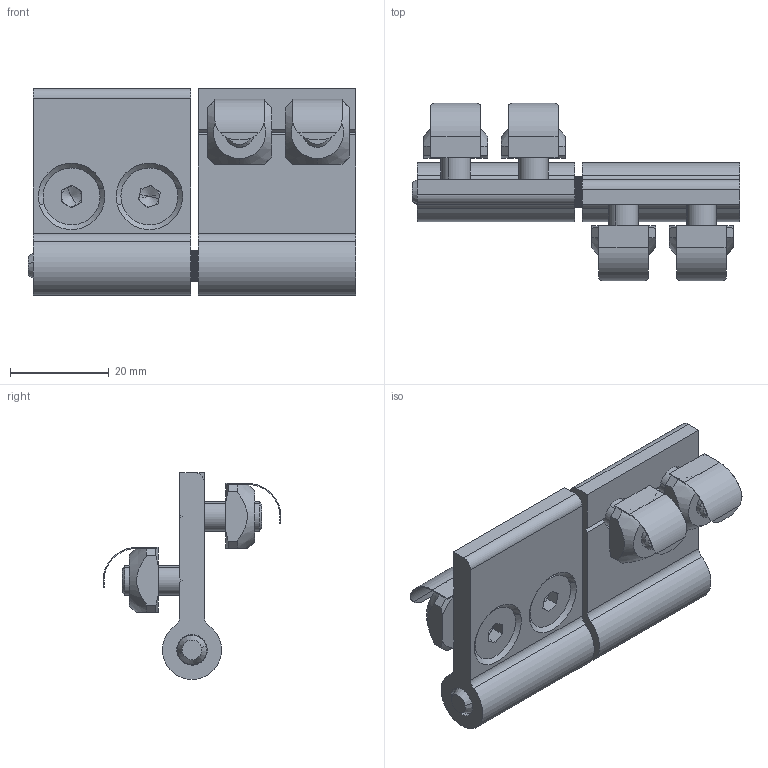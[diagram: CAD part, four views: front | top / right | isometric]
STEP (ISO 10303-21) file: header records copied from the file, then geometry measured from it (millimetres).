
FILE_DESCRIPTION (( 'STEP AP214' ), '1' );
FILE_NAME ('1.4004 Sarana 19-45.STEP', '2025-09-15T08:18:53', ( '' ), ( '' ), 'SwSTEP 2.0', 'SolidWorks 2025', '' );
FILE_SCHEMA (( 'AUTOMOTIVE_DESIGN' ));
Length unit declared in the file: millimetre
Products named in the file (1): 1.4004 Sarana 19-45
Bounding box: 66.5 x 36.09 x 42 mm (x, y, z)
Volume: 20572.7 mm3; surface area: 15343.6 mm2
Topology: 11 solids, 11 shells, 669 faces, 1629 edges, 1046 vertices
Faces by surface type: plane 457, cylinder 136, cone 68, torus 8
Entity records: 27459 total; most frequent: CARTESIAN_POINT 4069, DIRECTION 3349, ORIENTED_EDGE 3242, EDGE_CURVE 1621, AXIS2_PLACEMENT_3D 1190, VERTEX_POINT 1046, VECTOR 969, LINE 969
